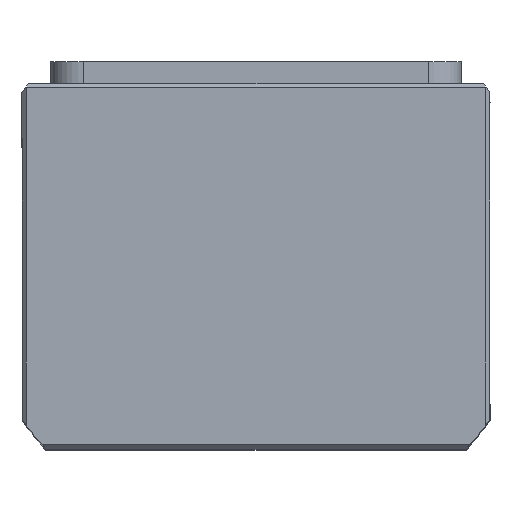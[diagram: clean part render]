
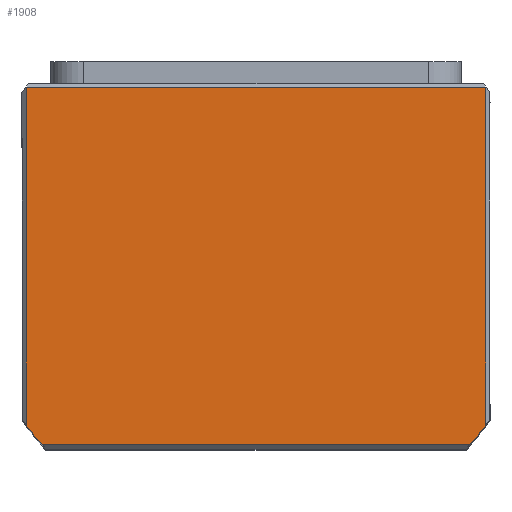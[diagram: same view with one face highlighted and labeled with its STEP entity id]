
A CAD part, top view. The second image highlights one B-rep face of the part: STEP entity #1908.
In plain terms, the highlighted planar face has unit normal (0, 0, 1) as drawn and (0, 0, -1) by its records, which use the part's own axes.
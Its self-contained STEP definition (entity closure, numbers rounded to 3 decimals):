
#305 = CIRCLE ( 'NONE', #3406, 69.5 ) ;
#629 = CARTESIAN_POINT ( 'NONE',  ( 0., -43.5, 0. ) ) ;
#837 = CARTESIAN_POINT ( 'NONE',  ( 56., -43.5, 0. ) ) ;
#878 = ORIENTED_EDGE ( 'NONE', *, *, #7233, .T. ) ;
#1499 = ORIENTED_EDGE ( 'NONE', *, *, #17334, .T. ) ;
#1561 = VERTEX_POINT ( 'NONE', #3643 ) ;
#1623 = AXIS2_PLACEMENT_3D ( 'NONE', #4594, #14805, #5966 ) ;
#1908 = ADVANCED_FACE ( 'NONE', ( #4566 ), #18682, .F. ) ;
#2134 = DIRECTION ( 'NONE',  ( -1., 0., 0. ) ) ;
#3406 = AXIS2_PLACEMENT_3D ( 'NONE', #13929, #13865, #13742 ) ;
#3566 = CARTESIAN_POINT ( 'NONE',  ( 0., 0., 0. ) ) ;
#3643 = CARTESIAN_POINT ( 'NONE',  ( -52.098, 43.5, 0. ) ) ;
#4011 = ORIENTED_EDGE ( 'NONE', *, *, #6746, .F. ) ;
#4079 = DIRECTION ( 'NONE',  ( 0., 1., 0. ) ) ;
#4140 = CARTESIAN_POINT ( 'NONE',  ( -56., 0., 0. ) ) ;
#4527 = DIRECTION ( 'NONE',  ( 0., -1., 0. ) ) ;
#4566 = FACE_OUTER_BOUND ( 'NONE', #14094, .T. ) ;
#4594 = CARTESIAN_POINT ( 'NONE',  ( 0., -2.5, 0. ) ) ;
#4601 = VERTEX_POINT ( 'NONE', #15322 ) ;
#5622 = EDGE_CURVE ( 'NONE', #4601, #12597, #18545, .T. ) ;
#5705 = LINE ( 'NONE', #629, #13555 ) ;
#5966 = DIRECTION ( 'NONE',  ( 1., 0., 0. ) ) ;
#6746 = EDGE_CURVE ( 'NONE', #1561, #12597, #305, .T. ) ;
#7233 = EDGE_CURVE ( 'NONE', #8289, #16779, #9132, .T. ) ;
#8289 = VERTEX_POINT ( 'NONE', #10100 ) ;
#9132 = LINE ( 'NONE', #9599, #13598 ) ;
#9599 = CARTESIAN_POINT ( 'NONE',  ( 56., 0., 0. ) ) ;
#10043 = VERTEX_POINT ( 'NONE', #11345 ) ;
#10100 = CARTESIAN_POINT ( 'NONE',  ( 56., 38.661, 0. ) ) ;
#11200 = DIRECTION ( 'NONE',  ( 1., 0., 0. ) ) ;
#11345 = CARTESIAN_POINT ( 'NONE',  ( 52.098, 43.5, 0. ) ) ;
#12597 = VERTEX_POINT ( 'NONE', #15493 ) ;
#12603 = VECTOR ( 'NONE', #11200, 1000. ) ;
#12731 = CARTESIAN_POINT ( 'NONE',  ( 0., 43.5, 0. ) ) ;
#13459 = ORIENTED_EDGE ( 'NONE', *, *, #17029, .T. ) ;
#13555 = VECTOR ( 'NONE', #2134, 1000. ) ;
#13598 = VECTOR ( 'NONE', #4527, 1000. ) ;
#13742 = DIRECTION ( 'NONE',  ( 1., 0., 0. ) ) ;
#13851 = ORIENTED_EDGE ( 'NONE', *, *, #5622, .T. ) ;
#13865 = DIRECTION ( 'NONE',  ( 0., 0., 1. ) ) ;
#13929 = CARTESIAN_POINT ( 'NONE',  ( 0., -2.5, 0. ) ) ;
#14094 = EDGE_LOOP ( 'NONE', ( #15094, #878, #13459, #13851, #4011, #1499 ) ) ;
#14805 = DIRECTION ( 'NONE',  ( 0., 0., 1. ) ) ;
#14988 = DIRECTION ( 'NONE',  ( 1., 0., 0. ) ) ;
#15094 = ORIENTED_EDGE ( 'NONE', *, *, #17991, .F. ) ;
#15322 = CARTESIAN_POINT ( 'NONE',  ( -56., -43.5, 0. ) ) ;
#15493 = CARTESIAN_POINT ( 'NONE',  ( -56., 38.661, 0. ) ) ;
#16048 = DIRECTION ( 'NONE',  ( 0., 0., 1. ) ) ;
#16779 = VERTEX_POINT ( 'NONE', #837 ) ;
#17029 = EDGE_CURVE ( 'NONE', #16779, #4601, #5705, .T. ) ;
#17334 = EDGE_CURVE ( 'NONE', #1561, #10043, #17514, .T. ) ;
#17372 = AXIS2_PLACEMENT_3D ( 'NONE', #3566, #16048, #14988 ) ;
#17514 = LINE ( 'NONE', #12731, #12603 ) ;
#17754 = CIRCLE ( 'NONE', #1623, 69.5 ) ;
#17991 = EDGE_CURVE ( 'NONE', #8289, #10043, #17754, .T. ) ;
#18545 = LINE ( 'NONE', #4140, #19002 ) ;
#18682 = PLANE ( 'NONE',  #17372 ) ;
#19002 = VECTOR ( 'NONE', #4079, 1000. ) ;
